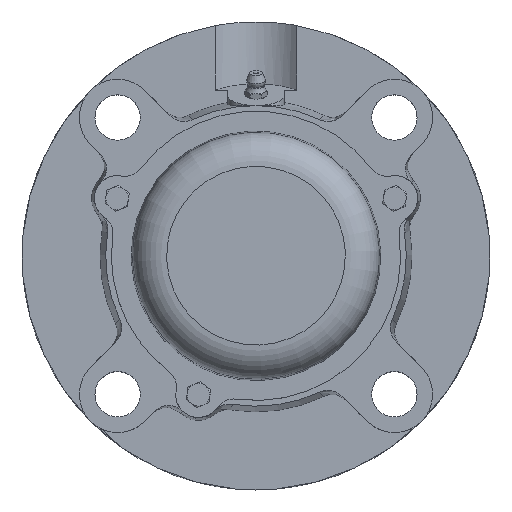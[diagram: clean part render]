
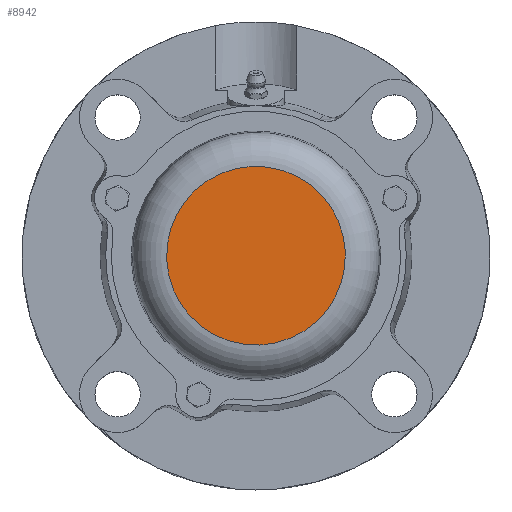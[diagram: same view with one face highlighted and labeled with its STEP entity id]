
A CAD part, top view. The second image highlights one B-rep face of the part: STEP entity #8942.
In plain terms, the highlighted planar face has unit normal (0, 0, 1).
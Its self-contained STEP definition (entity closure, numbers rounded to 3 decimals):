
#8911=CARTESIAN_POINT('',(-31.51,0.0,29.));
#8912=VERTEX_POINT('',#8911);
#8913=CARTESIAN_POINT('',(0.0,0.0,29.));
#8914=DIRECTION('',(0.0,0.0,-1.0));
#8915=DIRECTION('',(1.0,0.0,0.0));
#8916=AXIS2_PLACEMENT_3D('',#8913,#8914,#8915);
#8917=CIRCLE('',#8916,31.51);
#8918=EDGE_CURVE('',#8912,#8912,#8917,.T.);
#8934=CARTESIAN_POINT('',(0.0,0.0,29.));
#8935=DIRECTION('',(0.0,0.0,-1.0));
#8936=DIRECTION('',(-1.0,0.0,0.0));
#8937=AXIS2_PLACEMENT_3D('',#8934,#8935,#8936);
#8938=PLANE('',#8937);
#8939=ORIENTED_EDGE('',*,*,#8918,.F.);
#8940=EDGE_LOOP('',(#8939));
#8941=FACE_OUTER_BOUND('',#8940,.T.);
#8942=ADVANCED_FACE('',(#8941),#8938,.F.);
